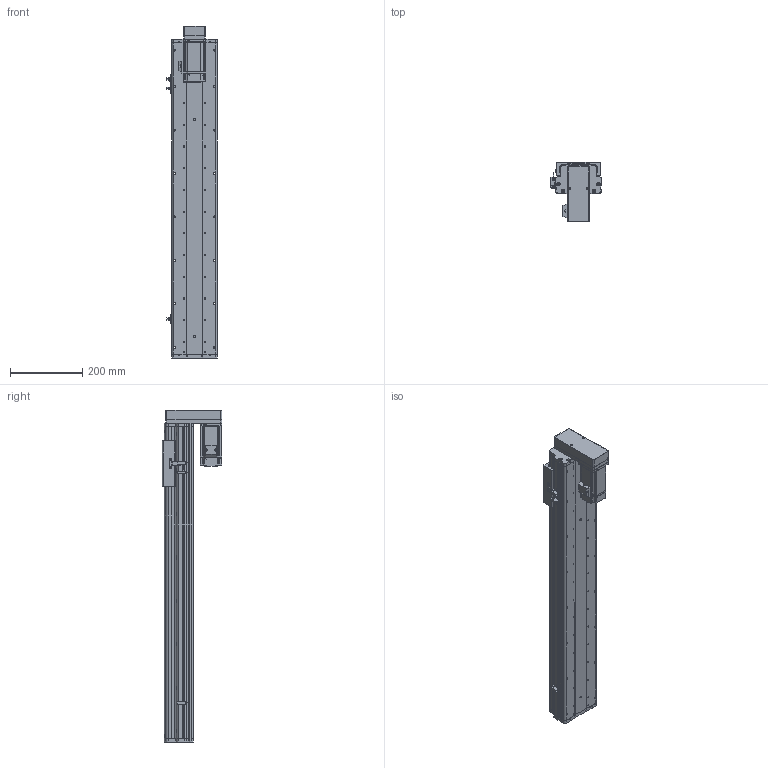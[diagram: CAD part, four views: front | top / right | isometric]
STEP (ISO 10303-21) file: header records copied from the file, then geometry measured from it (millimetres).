
FILE_DESCRIPTION (( 'STEP AP214' ), '1' );
FILE_NAME ('KSD125S-S650-MD-CM.STEP', '2017-10-21T08:08:58', ( '微软用户' ), ( '微软中国' ), 'SwSTEP 2.0', 'SolidWorks 2014', '' );
FILE_SCHEMA (( 'AUTOMOTIVE_DESIGN' ));
Length unit declared in the file: millimetre
Products named in the file (16): HTPA30S3M150_A_H6_a萇儂蚚; KSD125S-650俴最佪裝滅鳥裔; KSD125S-650俴最佪裝菁啣; MHMD042G1CA_2_03; 拸萇儂釱滅袉菜; 拸萇儂釱滅袉菜-1; 覜茼え68遵圉猾敕; U倰嫖萇假蚾璃; U倰嫖萇EEㄜSX672; ヶ傷啣-125遵耀郪; KSD125-賑雄釱1; 125-帣傷啣1; KSD125S-S650-MD-CM; 125宽马达安装板连板上下折丝杆同步带; 125遵悵誘欶奻狟殏; HTPA30S3M150_A_H6_a佪裝蚚
Assembly tree (19 placements, depth 2):
  KSD125S-S650-MD-CM
    125-帣傷啣1
    KSD125-賑雄釱1
    ヶ傷啣-125遵耀郪
    U倰嫖萇EEㄜSX672  x3
    U倰嫖萇假蚾璃  x3
    覜茼え68遵圉猾敕
    拸萇儂釱滅袉菜-1
    拸萇儂釱滅袉菜
    MHMD042G1CA_2_03
    KSD125S-650俴最佪裝菁啣
    KSD125S-650俴最佪裝滅鳥裔
    HTPA30S3M150_A_H6_a萇儂蚚
    HTPA30S3M150_A_H6_a佪裝蚚
    125遵悵誘欶奻狟殏
    125宽马达安装板连板上下折丝杆同步带
Bounding box: 138.7 x 165 x 917.5 mm (x, y, z)
Volume: 3014124.1 mm3; surface area: 1031670 mm2
Topology: 18 solids, 21 shells, 2215 faces, 6423 edges, 4237 vertices
Faces by surface type: cylinder 1390, plane 684, cone 119, bspline 22
Entity records: 79415 total; most frequent: CARTESIAN_POINT 15889, DIRECTION 12201, ORIENTED_EDGE 11354, EDGE_CURVE 5755, AXIS2_PLACEMENT_3D 4719, VERTEX_POINT 3829, VECTOR 2763, LINE 2763
